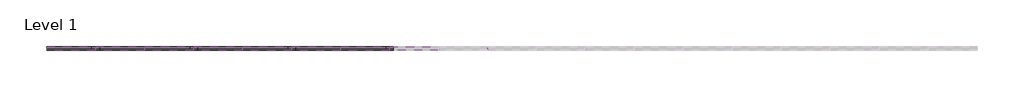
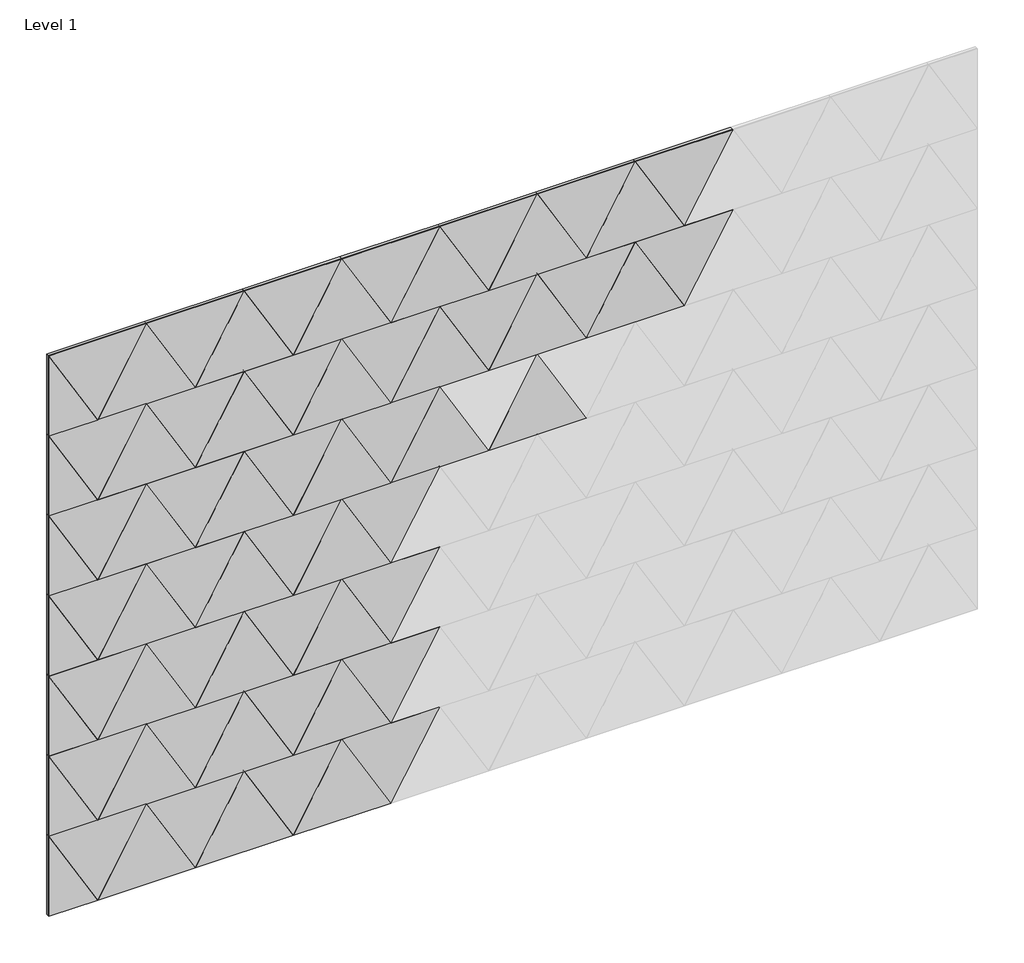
# One storey, part 1 of 2: 70 proxies.
"""IFC4 building model written with IfcOpenShell, lengths in millimetres."""

from ifc_helpers import new_model, si_unit, origin, place, context, project, spatial, transform, mapped, element, save
from components import triangle_60_block_95fa7baf, triangle_60_block_31d98bf3

model = new_model("IFC4")

# Units and contexts
model_context = context("Model", 3, world=origin())
ifc_project = project(units=[si_unit("LENGTHUNIT", "METRE", prefix="MILLI")], contexts=[model_context])

# Site, building, storey
site = spatial("IfcSite", under=ifc_project)
building = spatial("IfcBuilding", under=site)
storey = spatial("IfcBuildingStorey", under=building, Name="Level 1", Elevation=0.0)

# Proxies
placement = place(None, origin())
triangle_60_block_shape = triangle_60_block_95fa7baf(model_context)
element("IfcBuildingElementProxy", 1, Name="FilzFelt_Triangle_60_Block : Triangle 60 Block", ObjectType="FilzFelt_Triangle_60_Block : Triangle 60 Block", at=placement, inside=storey, context=model_context, shape_type="MappedRepresentation", body=[
    mapped(triangle_60_block_shape, transform((47006.38659, -3215.9647205, 2243.3090029), x_axis=(1.0, 0.0, 0.0), y_axis=(0.0, 0.0, 1.0), z_axis=(0.0, -1.0, 0.0))),
])
element("IfcBuildingElementProxy", 2, Name="FilzFelt_Triangle_60_Block : Triangle 60 Block", ObjectType="FilzFelt_Triangle_60_Block : Triangle 60 Block", at=placement, inside=storey, context=model_context, shape_type="MappedRepresentation", body=[
    mapped(triangle_60_block_shape, transform((47358.81159, -3215.9647205, 2243.3090029), x_axis=(1.0, 0.0, 0.0), y_axis=(0.0, 0.0, 1.0), z_axis=(0.0, -1.0, 0.0))),
])
element("IfcBuildingElementProxy", 3, Name="FilzFelt_Triangle_60_Block : Triangle 60 Block", ObjectType="FilzFelt_Triangle_60_Block : Triangle 60 Block", at=placement, inside=storey, context=model_context, shape_type="MappedRepresentation", body=[
    mapped(triangle_60_block_shape, transform((47711.23659, -3215.9647205, 2243.3090029), x_axis=(1.0, 0.0, 0.0), y_axis=(0.0, 0.0, 1.0), z_axis=(0.0, -1.0, 0.0))),
])
element("IfcBuildingElementProxy", 4, Name="FilzFelt_Triangle_60_Block : Triangle 60 Block", ObjectType="FilzFelt_Triangle_60_Block : Triangle 60 Block", at=placement, inside=storey, context=model_context, shape_type="MappedRepresentation", body=[
    mapped(triangle_60_block_shape, transform((48063.66159, -3215.9647205, 2243.3090029), x_axis=(1.0, 0.0, 0.0), y_axis=(0.0, 0.0, 1.0), z_axis=(0.0, -1.0, 0.0))),
])
element("IfcBuildingElementProxy", 5, Name="FilzFelt_Triangle_60_Block : Triangle 60 Block", ObjectType="FilzFelt_Triangle_60_Block : Triangle 60 Block", at=placement, inside=storey, context=model_context, shape_type="MappedRepresentation", body=[
    mapped(triangle_60_block_shape, transform((48416.08659, -3215.9647205, 2243.3090029), x_axis=(1.0, 0.0, 0.0), y_axis=(0.0, 0.0, 1.0), z_axis=(0.0, -1.0, 0.0))),
])
element("IfcBuildingElementProxy", 6, Name="FilzFelt_Triangle_60_Block : Triangle 60 Block", ObjectType="FilzFelt_Triangle_60_Block : Triangle 60 Block", at=placement, inside=storey, context=model_context, shape_type="MappedRepresentation", body=[
    mapped(triangle_60_block_shape, transform((48768.51159, -3215.9647205, 2243.3090029), x_axis=(1.0, 0.0, 0.0), y_axis=(0.0, 0.0, 1.0), z_axis=(0.0, -1.0, 0.0))),
])
element("IfcBuildingElementProxy", 7, Name="FilzFelt_Triangle_60_Block : Triangle 60 Block", ObjectType="FilzFelt_Triangle_60_Block : Triangle 60 Block", at=placement, inside=storey, context=model_context, shape_type="MappedRepresentation", body=[
    mapped(triangle_60_block_shape, transform((47182.59909, -3215.9647205, 1938.3090029), x_axis=(-1.0, 0.0, 0.0), y_axis=(0.0, 0.0, -1.0), z_axis=(0.0, -1.0, 0.0))),
])
element("IfcBuildingElementProxy", 8, Name="FilzFelt_Triangle_60_Block : Triangle 60 Block", ObjectType="FilzFelt_Triangle_60_Block : Triangle 60 Block", at=placement, inside=storey, context=model_context, shape_type="MappedRepresentation", body=[
    mapped(triangle_60_block_shape, transform((47535.02409, -3215.9647205, 1938.3090029), x_axis=(-1.0, 0.0, 0.0), y_axis=(0.0, 0.0, -1.0), z_axis=(0.0, -1.0, 0.0))),
])
element("IfcBuildingElementProxy", 9, Name="FilzFelt_Triangle_60_Block : Triangle 60 Block", ObjectType="FilzFelt_Triangle_60_Block : Triangle 60 Block", at=placement, inside=storey, context=model_context, shape_type="MappedRepresentation", body=[
    mapped(triangle_60_block_shape, transform((47887.44909, -3215.9647205, 1938.3090029), x_axis=(-1.0, 0.0, 0.0), y_axis=(0.0, 0.0, -1.0), z_axis=(0.0, -1.0, 0.0))),
])
element("IfcBuildingElementProxy", 10, Name="FilzFelt_Triangle_60_Block : Triangle 60 Block", ObjectType="FilzFelt_Triangle_60_Block : Triangle 60 Block", at=placement, inside=storey, context=model_context, shape_type="MappedRepresentation", body=[
    mapped(triangle_60_block_shape, transform((48239.87409, -3215.9647205, 1938.3090029), x_axis=(-1.0, 0.0, 0.0), y_axis=(0.0, 0.0, -1.0), z_axis=(0.0, -1.0, 0.0))),
])
element("IfcBuildingElementProxy", 11, Name="FilzFelt_Triangle_60_Block : Triangle 60 Block", ObjectType="FilzFelt_Triangle_60_Block : Triangle 60 Block", at=placement, inside=storey, context=model_context, shape_type="MappedRepresentation", body=[
    mapped(triangle_60_block_shape, transform((48592.29909, -3215.9647205, 1938.3090029), x_axis=(-1.0, 0.0, 0.0), y_axis=(0.0, 0.0, -1.0), z_axis=(0.0, -1.0, 0.0))),
])
element("IfcBuildingElementProxy", 12, Name="FilzFelt_Triangle_60_Block : Triangle 60 Block", ObjectType="FilzFelt_Triangle_60_Block : Triangle 60 Block", at=placement, inside=storey, context=model_context, shape_type="MappedRepresentation", body=[
    mapped(triangle_60_block_shape, transform((48944.72409, -3215.9647205, 1938.3090029), x_axis=(-1.0, 0.0, 0.0), y_axis=(0.0, 0.0, -1.0), z_axis=(0.0, -1.0, 0.0))),
])
element("IfcBuildingElementProxy", 13, Name="FilzFelt_Triangle_60_Block : Triangle 60 Block", ObjectType="FilzFelt_Triangle_60_Block : Triangle 60 Block", at=placement, inside=storey, context=model_context, shape_type="MappedRepresentation", body=[
    mapped(triangle_60_block_shape, transform((47006.38659, -3215.9647205, 1632.8909971), x_axis=(1.0, 0.0, 0.0), y_axis=(0.0, 0.0, 1.0), z_axis=(0.0, -1.0, 0.0))),
])
element("IfcBuildingElementProxy", 14, Name="FilzFelt_Triangle_60_Block : Triangle 60 Block", ObjectType="FilzFelt_Triangle_60_Block : Triangle 60 Block", at=placement, inside=storey, context=model_context, shape_type="MappedRepresentation", body=[
    mapped(triangle_60_block_shape, transform((47358.81159, -3215.9647205, 1632.8909971), x_axis=(1.0, 0.0, 0.0), y_axis=(0.0, 0.0, 1.0), z_axis=(0.0, -1.0, 0.0))),
])
element("IfcBuildingElementProxy", 15, Name="FilzFelt_Triangle_60_Block : Triangle 60 Block", ObjectType="FilzFelt_Triangle_60_Block : Triangle 60 Block", at=placement, inside=storey, context=model_context, shape_type="MappedRepresentation", body=[
    mapped(triangle_60_block_shape, transform((47711.23659, -3215.9647205, 1632.8909971), x_axis=(1.0, 0.0, 0.0), y_axis=(0.0, 0.0, 1.0), z_axis=(0.0, -1.0, 0.0))),
])
element("IfcBuildingElementProxy", 16, Name="FilzFelt_Triangle_60_Block : Triangle 60 Block", ObjectType="FilzFelt_Triangle_60_Block : Triangle 60 Block", at=placement, inside=storey, context=model_context, shape_type="MappedRepresentation", body=[
    mapped(triangle_60_block_shape, transform((48063.66159, -3215.9647205, 1632.8909971), x_axis=(1.0, 0.0, 0.0), y_axis=(0.0, 0.0, 1.0), z_axis=(0.0, -1.0, 0.0))),
])
element("IfcBuildingElementProxy", 17, Name="FilzFelt_Triangle_60_Block : Triangle 60 Block", ObjectType="FilzFelt_Triangle_60_Block : Triangle 60 Block", at=placement, inside=storey, context=model_context, shape_type="MappedRepresentation", body=[
    mapped(triangle_60_block_shape, transform((48416.08659, -3215.9647205, 1632.8909971), x_axis=(1.0, 0.0, 0.0), y_axis=(0.0, 0.0, 1.0), z_axis=(0.0, -1.0, 0.0))),
])
element("IfcBuildingElementProxy", 18, Name="FilzFelt_Triangle_60_Block : Triangle 60 Block", ObjectType="FilzFelt_Triangle_60_Block : Triangle 60 Block", at=placement, inside=storey, context=model_context, shape_type="MappedRepresentation", body=[
    mapped(triangle_60_block_shape, transform((47182.59909, -3215.9647205, 1327.8909971), x_axis=(-1.0, 0.0, 0.0), y_axis=(0.0, 0.0, -1.0), z_axis=(0.0, -1.0, 0.0))),
])
element("IfcBuildingElementProxy", 19, Name="FilzFelt_Triangle_60_Block : Triangle 60 Block", ObjectType="FilzFelt_Triangle_60_Block : Triangle 60 Block", at=placement, inside=storey, context=model_context, shape_type="MappedRepresentation", body=[
    mapped(triangle_60_block_shape, transform((47535.02409, -3215.9647205, 1327.8909971), x_axis=(-1.0, 0.0, 0.0), y_axis=(0.0, 0.0, -1.0), z_axis=(0.0, -1.0, 0.0))),
])
element("IfcBuildingElementProxy", 20, Name="FilzFelt_Triangle_60_Block : Triangle 60 Block", ObjectType="FilzFelt_Triangle_60_Block : Triangle 60 Block", at=placement, inside=storey, context=model_context, shape_type="MappedRepresentation", body=[
    mapped(triangle_60_block_shape, transform((47887.44909, -3215.9647205, 1327.8909971), x_axis=(-1.0, 0.0, 0.0), y_axis=(0.0, 0.0, -1.0), z_axis=(0.0, -1.0, 0.0))),
])
element("IfcBuildingElementProxy", 21, Name="FilzFelt_Triangle_60_Block : Triangle 60 Block", ObjectType="FilzFelt_Triangle_60_Block : Triangle 60 Block", at=placement, inside=storey, context=model_context, shape_type="MappedRepresentation", body=[
    mapped(triangle_60_block_shape, transform((47006.38659, -3215.9647205, 1022.4729912), x_axis=(1.0, 0.0, 0.0), y_axis=(0.0, 0.0, 1.0), z_axis=(0.0, -1.0, 0.0))),
])
element("IfcBuildingElementProxy", 22, Name="FilzFelt_Triangle_60_Block : Triangle 60 Block", ObjectType="FilzFelt_Triangle_60_Block : Triangle 60 Block", at=placement, inside=storey, context=model_context, shape_type="MappedRepresentation", body=[
    mapped(triangle_60_block_shape, transform((47358.81159, -3215.9647205, 1022.4729912), x_axis=(1.0, 0.0, 0.0), y_axis=(0.0, 0.0, 1.0), z_axis=(0.0, -1.0, 0.0))),
])
element("IfcBuildingElementProxy", 23, Name="FilzFelt_Triangle_60_Block : Triangle 60 Block", ObjectType="FilzFelt_Triangle_60_Block : Triangle 60 Block", at=placement, inside=storey, context=model_context, shape_type="MappedRepresentation", body=[
    mapped(triangle_60_block_shape, transform((47711.23659, -3215.9647205, 1022.4729912), x_axis=(1.0, 0.0, 0.0), y_axis=(0.0, 0.0, 1.0), z_axis=(0.0, -1.0, 0.0))),
])
element("IfcBuildingElementProxy", 24, Name="FilzFelt_Triangle_60_Block : Triangle 60 Block", ObjectType="FilzFelt_Triangle_60_Block : Triangle 60 Block", at=placement, inside=storey, context=model_context, shape_type="MappedRepresentation", body=[
    mapped(triangle_60_block_shape, transform((47182.59909, -3215.9647205, 717.4729912), x_axis=(-1.0, 0.0, 0.0), y_axis=(0.0, 0.0, -1.0), z_axis=(0.0, -1.0, 0.0))),
])
element("IfcBuildingElementProxy", 25, Name="FilzFelt_Triangle_60_Block : Triangle 60 Block", ObjectType="FilzFelt_Triangle_60_Block : Triangle 60 Block", at=placement, inside=storey, context=model_context, shape_type="MappedRepresentation", body=[
    mapped(triangle_60_block_shape, transform((47535.02409, -3215.9647205, 717.4729912), x_axis=(-1.0, 0.0, 0.0), y_axis=(0.0, 0.0, -1.0), z_axis=(0.0, -1.0, 0.0))),
])
element("IfcBuildingElementProxy", 26, Name="FilzFelt_Triangle_60_Block : Triangle 60 Block", ObjectType="FilzFelt_Triangle_60_Block : Triangle 60 Block", at=placement, inside=storey, context=model_context, shape_type="MappedRepresentation", body=[
    mapped(triangle_60_block_shape, transform((47887.44909, -3215.9647205, 717.4729912), x_axis=(-1.0, 0.0, 0.0), y_axis=(0.0, 0.0, -1.0), z_axis=(0.0, -1.0, 0.0))),
])
element("IfcBuildingElementProxy", 27, Name="FilzFelt_Triangle_60_Block : Triangle 60 Block", ObjectType="FilzFelt_Triangle_60_Block : Triangle 60 Block", at=placement, inside=storey, context=model_context, shape_type="MappedRepresentation", body=[
    mapped(triangle_60_block_shape, transform((47006.38659, -3215.9647205, 412.0549854), x_axis=(1.0, 0.0, 0.0), y_axis=(0.0, 0.0, 1.0), z_axis=(0.0, -1.0, 0.0))),
])
element("IfcBuildingElementProxy", 28, Name="FilzFelt_Triangle_60_Block : Triangle 60 Block", ObjectType="FilzFelt_Triangle_60_Block : Triangle 60 Block", at=placement, inside=storey, context=model_context, shape_type="MappedRepresentation", body=[
    mapped(triangle_60_block_shape, transform((47358.81159, -3215.9647205, 412.0549854), x_axis=(1.0, 0.0, 0.0), y_axis=(0.0, 0.0, 1.0), z_axis=(0.0, -1.0, 0.0))),
])
element("IfcBuildingElementProxy", 29, Name="FilzFelt_Triangle_60_Block : Triangle 60 Block", ObjectType="FilzFelt_Triangle_60_Block : Triangle 60 Block", at=placement, inside=storey, context=model_context, shape_type="MappedRepresentation", body=[
    mapped(triangle_60_block_shape, transform((47711.23659, -3215.9647205, 412.0549854), x_axis=(1.0, 0.0, 0.0), y_axis=(0.0, 0.0, 1.0), z_axis=(0.0, -1.0, 0.0))),
])
element("IfcBuildingElementProxy", 30, Name="FilzFelt_Triangle_60_Block : Triangle 60 Block", ObjectType="FilzFelt_Triangle_60_Block : Triangle 60 Block", at=placement, inside=storey, context=model_context, shape_type="MappedRepresentation", body=[
    mapped(triangle_60_block_shape, transform((46830.17409, -3215.9647205, 1938.3090029), x_axis=(-1.0, 0.0, 0.0), y_axis=(0.0, 0.0, -1.0), z_axis=(0.0, -1.0, 0.0))),
])
element("IfcBuildingElementProxy", 31, Name="FilzFelt_Triangle_60_Block : Triangle 60 Block", ObjectType="FilzFelt_Triangle_60_Block : Triangle 60 Block", at=placement, inside=storey, context=model_context, shape_type="MappedRepresentation", body=[
    mapped(triangle_60_block_shape, transform((46830.17409, -3215.9647205, 1327.8909971), x_axis=(-1.0, 0.0, 0.0), y_axis=(0.0, 0.0, -1.0), z_axis=(0.0, -1.0, 0.0))),
])
element("IfcBuildingElementProxy", 32, Name="FilzFelt_Triangle_60_Block : Triangle 60 Block", ObjectType="FilzFelt_Triangle_60_Block : Triangle 60 Block", at=placement, inside=storey, context=model_context, shape_type="MappedRepresentation", body=[
    mapped(triangle_60_block_shape, transform((46830.17409, -3215.9647205, 717.4729912), x_axis=(-1.0, 0.0, 0.0), y_axis=(0.0, 0.0, -1.0), z_axis=(0.0, -1.0, 0.0))),
])
element("IfcBuildingElementProxy", 33, Name="FilzFelt_Triangle_60_Block : Triangle 60 Block", ObjectType="FilzFelt_Triangle_60_Block : Triangle 60 Block", at=placement, inside=storey, context=model_context, shape_type="MappedRepresentation", body=[
    mapped(triangle_60_block_shape, transform((47182.59909, -3215.9647205, 2243.5180059), x_axis=(-1.0, 0.0, 0.0), y_axis=(0.0, 0.0, -1.0), z_axis=(0.0, -1.0, 0.0))),
])
element("IfcBuildingElementProxy", 34, Name="FilzFelt_Triangle_60_Block : Triangle 60 Block", ObjectType="FilzFelt_Triangle_60_Block : Triangle 60 Block", at=placement, inside=storey, context=model_context, shape_type="MappedRepresentation", body=[
    mapped(triangle_60_block_shape, transform((47535.02409, -3215.9647205, 2243.5180059), x_axis=(-1.0, 0.0, 0.0), y_axis=(0.0, 0.0, -1.0), z_axis=(0.0, -1.0, 0.0))),
])
element("IfcBuildingElementProxy", 35, Name="FilzFelt_Triangle_60_Block : Triangle 60 Block", ObjectType="FilzFelt_Triangle_60_Block : Triangle 60 Block", at=placement, inside=storey, context=model_context, shape_type="MappedRepresentation", body=[
    mapped(triangle_60_block_shape, transform((47887.44909, -3215.9647205, 2243.5180059), x_axis=(-1.0, 0.0, 0.0), y_axis=(0.0, 0.0, -1.0), z_axis=(0.0, -1.0, 0.0))),
])
element("IfcBuildingElementProxy", 36, Name="FilzFelt_Triangle_60_Block : Triangle 60 Block", ObjectType="FilzFelt_Triangle_60_Block : Triangle 60 Block", at=placement, inside=storey, context=model_context, shape_type="MappedRepresentation", body=[
    mapped(triangle_60_block_shape, transform((48239.87409, -3215.9647205, 2243.5180059), x_axis=(-1.0, 0.0, 0.0), y_axis=(0.0, 0.0, -1.0), z_axis=(0.0, -1.0, 0.0))),
])
element("IfcBuildingElementProxy", 37, Name="FilzFelt_Triangle_60_Block : Triangle 60 Block", ObjectType="FilzFelt_Triangle_60_Block : Triangle 60 Block", at=placement, inside=storey, context=model_context, shape_type="MappedRepresentation", body=[
    mapped(triangle_60_block_shape, transform((48592.29909, -3215.9647205, 2243.5180059), x_axis=(-1.0, 0.0, 0.0), y_axis=(0.0, 0.0, -1.0), z_axis=(0.0, -1.0, 0.0))),
])
element("IfcBuildingElementProxy", 38, Name="FilzFelt_Triangle_60_Block : Triangle 60 Block", ObjectType="FilzFelt_Triangle_60_Block : Triangle 60 Block", at=placement, inside=storey, context=model_context, shape_type="MappedRepresentation", body=[
    mapped(triangle_60_block_shape, transform((48944.72409, -3215.9647205, 2243.5180059), x_axis=(-1.0, 0.0, 0.0), y_axis=(0.0, 0.0, -1.0), z_axis=(0.0, -1.0, 0.0))),
])
element("IfcBuildingElementProxy", 39, Name="FilzFelt_Triangle_60_Block : Triangle 60 Block", ObjectType="FilzFelt_Triangle_60_Block : Triangle 60 Block", at=placement, inside=storey, context=model_context, shape_type="MappedRepresentation", body=[
    mapped(triangle_60_block_shape, transform((47006.38659, -3215.9647205, 1938.1), x_axis=(1.0, 0.0, 0.0), y_axis=(0.0, 0.0, 1.0), z_axis=(0.0, -1.0, 0.0))),
])
element("IfcBuildingElementProxy", 40, Name="FilzFelt_Triangle_60_Block : Triangle 60 Block", ObjectType="FilzFelt_Triangle_60_Block : Triangle 60 Block", at=placement, inside=storey, context=model_context, shape_type="MappedRepresentation", body=[
    mapped(triangle_60_block_shape, transform((47358.81159, -3215.9647205, 1938.1), x_axis=(1.0, 0.0, 0.0), y_axis=(0.0, 0.0, 1.0), z_axis=(0.0, -1.0, 0.0))),
])
element("IfcBuildingElementProxy", 41, Name="FilzFelt_Triangle_60_Block : Triangle 60 Block", ObjectType="FilzFelt_Triangle_60_Block : Triangle 60 Block", at=placement, inside=storey, context=model_context, shape_type="MappedRepresentation", body=[
    mapped(triangle_60_block_shape, transform((47711.23659, -3215.9647205, 1938.1), x_axis=(1.0, 0.0, 0.0), y_axis=(0.0, 0.0, 1.0), z_axis=(0.0, -1.0, 0.0))),
])
element("IfcBuildingElementProxy", 42, Name="FilzFelt_Triangle_60_Block : Triangle 60 Block", ObjectType="FilzFelt_Triangle_60_Block : Triangle 60 Block", at=placement, inside=storey, context=model_context, shape_type="MappedRepresentation", body=[
    mapped(triangle_60_block_shape, transform((48063.66159, -3215.9647205, 1938.1), x_axis=(1.0, 0.0, 0.0), y_axis=(0.0, 0.0, 1.0), z_axis=(0.0, -1.0, 0.0))),
])
element("IfcBuildingElementProxy", 43, Name="FilzFelt_Triangle_60_Block : Triangle 60 Block", ObjectType="FilzFelt_Triangle_60_Block : Triangle 60 Block", at=placement, inside=storey, context=model_context, shape_type="MappedRepresentation", body=[
    mapped(triangle_60_block_shape, transform((48416.08659, -3215.9647205, 1938.1), x_axis=(1.0, 0.0, 0.0), y_axis=(0.0, 0.0, 1.0), z_axis=(0.0, -1.0, 0.0))),
])
element("IfcBuildingElementProxy", 44, Name="FilzFelt_Triangle_60_Block : Triangle 60 Block", ObjectType="FilzFelt_Triangle_60_Block : Triangle 60 Block", at=placement, inside=storey, context=model_context, shape_type="MappedRepresentation", body=[
    mapped(triangle_60_block_shape, transform((48768.51159, -3215.9647205, 1938.1), x_axis=(1.0, 0.0, 0.0), y_axis=(0.0, 0.0, 1.0), z_axis=(0.0, -1.0, 0.0))),
])
element("IfcBuildingElementProxy", 45, Name="FilzFelt_Triangle_60_Block : Triangle 60 Block", ObjectType="FilzFelt_Triangle_60_Block : Triangle 60 Block", at=placement, inside=storey, context=model_context, shape_type="MappedRepresentation", body=[
    mapped(triangle_60_block_shape, transform((47182.59909, -3215.9647205, 1633.1), x_axis=(-1.0, 0.0, 0.0), y_axis=(0.0, 0.0, -1.0), z_axis=(0.0, -1.0, 0.0))),
])
element("IfcBuildingElementProxy", 46, Name="FilzFelt_Triangle_60_Block : Triangle 60 Block", ObjectType="FilzFelt_Triangle_60_Block : Triangle 60 Block", at=placement, inside=storey, context=model_context, shape_type="MappedRepresentation", body=[
    mapped(triangle_60_block_shape, transform((47535.02409, -3215.9647205, 1633.1), x_axis=(-1.0, 0.0, 0.0), y_axis=(0.0, 0.0, -1.0), z_axis=(0.0, -1.0, 0.0))),
])
element("IfcBuildingElementProxy", 47, Name="FilzFelt_Triangle_60_Block : Triangle 60 Block", ObjectType="FilzFelt_Triangle_60_Block : Triangle 60 Block", at=placement, inside=storey, context=model_context, shape_type="MappedRepresentation", body=[
    mapped(triangle_60_block_shape, transform((47887.44909, -3215.9647205, 1633.1), x_axis=(-1.0, 0.0, 0.0), y_axis=(0.0, 0.0, -1.0), z_axis=(0.0, -1.0, 0.0))),
])
element("IfcBuildingElementProxy", 48, Name="FilzFelt_Triangle_60_Block : Triangle 60 Block", ObjectType="FilzFelt_Triangle_60_Block : Triangle 60 Block", at=placement, inside=storey, context=model_context, shape_type="MappedRepresentation", body=[
    mapped(triangle_60_block_shape, transform((47006.38659, -3215.9647205, 1327.6819941), x_axis=(1.0, 0.0, 0.0), y_axis=(0.0, 0.0, 1.0), z_axis=(0.0, -1.0, 0.0))),
])
element("IfcBuildingElementProxy", 49, Name="FilzFelt_Triangle_60_Block : Triangle 60 Block", ObjectType="FilzFelt_Triangle_60_Block : Triangle 60 Block", at=placement, inside=storey, context=model_context, shape_type="MappedRepresentation", body=[
    mapped(triangle_60_block_shape, transform((47358.81159, -3215.9647205, 1327.6819941), x_axis=(1.0, 0.0, 0.0), y_axis=(0.0, 0.0, 1.0), z_axis=(0.0, -1.0, 0.0))),
])
element("IfcBuildingElementProxy", 50, Name="FilzFelt_Triangle_60_Block : Triangle 60 Block", ObjectType="FilzFelt_Triangle_60_Block : Triangle 60 Block", at=placement, inside=storey, context=model_context, shape_type="MappedRepresentation", body=[
    mapped(triangle_60_block_shape, transform((47711.23659, -3215.9647205, 1327.6819941), x_axis=(1.0, 0.0, 0.0), y_axis=(0.0, 0.0, 1.0), z_axis=(0.0, -1.0, 0.0))),
])
element("IfcBuildingElementProxy", 51, Name="FilzFelt_Triangle_60_Block : Triangle 60 Block", ObjectType="FilzFelt_Triangle_60_Block : Triangle 60 Block", at=placement, inside=storey, context=model_context, shape_type="MappedRepresentation", body=[
    mapped(triangle_60_block_shape, transform((47182.59909, -3215.9647205, 1022.6819941), x_axis=(-1.0, 0.0, 0.0), y_axis=(0.0, 0.0, -1.0), z_axis=(0.0, -1.0, 0.0))),
])
element("IfcBuildingElementProxy", 52, Name="FilzFelt_Triangle_60_Block : Triangle 60 Block", ObjectType="FilzFelt_Triangle_60_Block : Triangle 60 Block", at=placement, inside=storey, context=model_context, shape_type="MappedRepresentation", body=[
    mapped(triangle_60_block_shape, transform((47535.02409, -3215.9647205, 1022.6819941), x_axis=(-1.0, 0.0, 0.0), y_axis=(0.0, 0.0, -1.0), z_axis=(0.0, -1.0, 0.0))),
])
element("IfcBuildingElementProxy", 53, Name="FilzFelt_Triangle_60_Block : Triangle 60 Block", ObjectType="FilzFelt_Triangle_60_Block : Triangle 60 Block", at=placement, inside=storey, context=model_context, shape_type="MappedRepresentation", body=[
    mapped(triangle_60_block_shape, transform((47887.44909, -3215.9647205, 1022.6819941), x_axis=(-1.0, 0.0, 0.0), y_axis=(0.0, 0.0, -1.0), z_axis=(0.0, -1.0, 0.0))),
])
element("IfcBuildingElementProxy", 54, Name="FilzFelt_Triangle_60_Block : Triangle 60 Block", ObjectType="FilzFelt_Triangle_60_Block : Triangle 60 Block", at=placement, inside=storey, context=model_context, shape_type="MappedRepresentation", body=[
    mapped(triangle_60_block_shape, transform((47006.38659, -3215.9647205, 717.2639883), x_axis=(1.0, 0.0, 0.0), y_axis=(0.0, 0.0, 1.0), z_axis=(0.0, -1.0, 0.0))),
])
element("IfcBuildingElementProxy", 55, Name="FilzFelt_Triangle_60_Block : Triangle 60 Block", ObjectType="FilzFelt_Triangle_60_Block : Triangle 60 Block", at=placement, inside=storey, context=model_context, shape_type="MappedRepresentation", body=[
    mapped(triangle_60_block_shape, transform((47358.81159, -3215.9647205, 717.2639883), x_axis=(1.0, 0.0, 0.0), y_axis=(0.0, 0.0, 1.0), z_axis=(0.0, -1.0, 0.0))),
])
element("IfcBuildingElementProxy", 56, Name="FilzFelt_Triangle_60_Block : Triangle 60 Block", ObjectType="FilzFelt_Triangle_60_Block : Triangle 60 Block", at=placement, inside=storey, context=model_context, shape_type="MappedRepresentation", body=[
    mapped(triangle_60_block_shape, transform((47711.23659, -3215.9647205, 717.2639883), x_axis=(1.0, 0.0, 0.0), y_axis=(0.0, 0.0, 1.0), z_axis=(0.0, -1.0, 0.0))),
])
element("IfcBuildingElementProxy", 57, Name="FilzFelt_Triangle_60_Block : Triangle 60 Block", ObjectType="FilzFelt_Triangle_60_Block : Triangle 60 Block", at=placement, inside=storey, context=model_context, shape_type="MappedRepresentation", body=[
    mapped(triangle_60_block_shape, transform((47182.59909, -3215.9647205, 412.2639883), x_axis=(-1.0, 0.0, 0.0), y_axis=(0.0, 0.0, -1.0), z_axis=(0.0, -1.0, 0.0))),
])
element("IfcBuildingElementProxy", 58, Name="FilzFelt_Triangle_60_Block : Triangle 60 Block", ObjectType="FilzFelt_Triangle_60_Block : Triangle 60 Block", at=placement, inside=storey, context=model_context, shape_type="MappedRepresentation", body=[
    mapped(triangle_60_block_shape, transform((47535.02409, -3215.9647205, 412.2639883), x_axis=(-1.0, 0.0, 0.0), y_axis=(0.0, 0.0, -1.0), z_axis=(0.0, -1.0, 0.0))),
])
element("IfcBuildingElementProxy", 59, Name="FilzFelt_Triangle_60_Block : Triangle 60 Block", ObjectType="FilzFelt_Triangle_60_Block : Triangle 60 Block", at=placement, inside=storey, context=model_context, shape_type="MappedRepresentation", body=[
    mapped(triangle_60_block_shape, transform((47887.44909, -3215.9647205, 412.2639883), x_axis=(-1.0, 0.0, 0.0), y_axis=(0.0, 0.0, -1.0), z_axis=(0.0, -1.0, 0.0))),
])
element("IfcBuildingElementProxy", 60, Name="FilzFelt_Triangle_60_Block : Triangle 60 Block", ObjectType="FilzFelt_Triangle_60_Block : Triangle 60 Block", at=placement, inside=storey, context=model_context, shape_type="MappedRepresentation", body=[
    mapped(triangle_60_block_shape, transform((46830.17409, -3215.9647205, 2243.5180059), x_axis=(-1.0, 0.0, 0.0), y_axis=(0.0, 0.0, -1.0), z_axis=(0.0, -1.0, 0.0))),
])
element("IfcBuildingElementProxy", 61, Name="FilzFelt_Triangle_60_Block : Triangle 60 Block", ObjectType="FilzFelt_Triangle_60_Block : Triangle 60 Block", at=placement, inside=storey, context=model_context, shape_type="MappedRepresentation", body=[
    mapped(triangle_60_block_shape, transform((46830.17409, -3215.9647205, 1633.1), x_axis=(-1.0, 0.0, 0.0), y_axis=(0.0, 0.0, -1.0), z_axis=(0.0, -1.0, 0.0))),
])
element("IfcBuildingElementProxy", 62, Name="FilzFelt_Triangle_60_Block : Triangle 60 Block", ObjectType="FilzFelt_Triangle_60_Block : Triangle 60 Block", at=placement, inside=storey, context=model_context, shape_type="MappedRepresentation", body=[
    mapped(triangle_60_block_shape, transform((46830.17409, -3215.9647205, 1022.6819941), x_axis=(-1.0, 0.0, 0.0), y_axis=(0.0, 0.0, -1.0), z_axis=(0.0, -1.0, 0.0))),
])
element("IfcBuildingElementProxy", 63, Name="FilzFelt_Triangle_60_Block : Triangle 60 Block", ObjectType="FilzFelt_Triangle_60_Block : Triangle 60 Block", at=placement, inside=storey, context=model_context, shape_type="MappedRepresentation", body=[
    mapped(triangle_60_block_shape, transform((46830.17409, -3215.9647205, 412.2639883), x_axis=(-1.0, 0.0, 0.0), y_axis=(0.0, 0.0, -1.0), z_axis=(0.0, -1.0, 0.0))),
])
triangle_60_block_2_shape = triangle_60_block_31d98bf3(model_context)
element("IfcBuildingElementProxy", 64, Name="FilzFelt_Triangle_60_Block : Triangle 60 Block", ObjectType="FilzFelt_Triangle_60_Block : Triangle 60 Block", at=placement, inside=storey, context=model_context, shape_type="MappedRepresentation", body=[
    mapped(triangle_60_block_2_shape, transform((46653.96159, -3215.9647205, 1938.1), x_axis=(1.0, 0.0, 0.0), y_axis=(0.0, 0.0, 1.0), z_axis=(0.0, -1.0, 0.0))),
])
element("IfcBuildingElementProxy", 65, Name="FilzFelt_Triangle_60_Block : Triangle 60 Block", ObjectType="FilzFelt_Triangle_60_Block : Triangle 60 Block", at=placement, inside=storey, context=model_context, shape_type="MappedRepresentation", body=[
    mapped(triangle_60_block_2_shape, transform((46653.96159, -3215.9647205, 1327.6819941), x_axis=(1.0, 0.0, 0.0), y_axis=(0.0, 0.0, 1.0), z_axis=(0.0, -1.0, 0.0))),
])
element("IfcBuildingElementProxy", 66, Name="FilzFelt_Triangle_60_Block : Triangle 60 Block", ObjectType="FilzFelt_Triangle_60_Block : Triangle 60 Block", at=placement, inside=storey, context=model_context, shape_type="MappedRepresentation", body=[
    mapped(triangle_60_block_2_shape, transform((46653.96159, -3215.9647205, 717.2639883), x_axis=(1.0, 0.0, 0.0), y_axis=(0.0, 0.0, 1.0), z_axis=(0.0, -1.0, 0.0))),
])
element("IfcBuildingElementProxy", 67, Name="FilzFelt_Triangle_60_Block : Triangle 60 Block", ObjectType="FilzFelt_Triangle_60_Block : Triangle 60 Block", at=placement, inside=storey, context=model_context, shape_type="MappedRepresentation", body=[
    mapped(triangle_60_block_2_shape, transform((46653.96159, -3215.9647205, 2243.3090029), x_axis=(1.0, 0.0, 0.0), y_axis=(0.0, 0.0, 1.0), z_axis=(0.0, -1.0, 0.0))),
])
element("IfcBuildingElementProxy", 68, Name="FilzFelt_Triangle_60_Block : Triangle 60 Block", ObjectType="FilzFelt_Triangle_60_Block : Triangle 60 Block", at=placement, inside=storey, context=model_context, shape_type="MappedRepresentation", body=[
    mapped(triangle_60_block_2_shape, transform((46653.96159, -3215.9647205, 1632.8909971), x_axis=(1.0, 0.0, 0.0), y_axis=(0.0, 0.0, 1.0), z_axis=(0.0, -1.0, 0.0))),
])
element("IfcBuildingElementProxy", 69, Name="FilzFelt_Triangle_60_Block : Triangle 60 Block", ObjectType="FilzFelt_Triangle_60_Block : Triangle 60 Block", at=placement, inside=storey, context=model_context, shape_type="MappedRepresentation", body=[
    mapped(triangle_60_block_2_shape, transform((46653.96159, -3215.9647205, 1022.4729912), x_axis=(1.0, 0.0, 0.0), y_axis=(0.0, 0.0, 1.0), z_axis=(0.0, -1.0, 0.0))),
])
element("IfcBuildingElementProxy", 70, Name="FilzFelt_Triangle_60_Block : Triangle 60 Block", ObjectType="FilzFelt_Triangle_60_Block : Triangle 60 Block", at=placement, inside=storey, context=model_context, shape_type="MappedRepresentation", body=[
    mapped(triangle_60_block_2_shape, transform((46653.96159, -3215.9647205, 412.0549854), x_axis=(1.0, 0.0, 0.0), y_axis=(0.0, 0.0, 1.0), z_axis=(0.0, -1.0, 0.0))),
])

save(model, "model.ifc")
